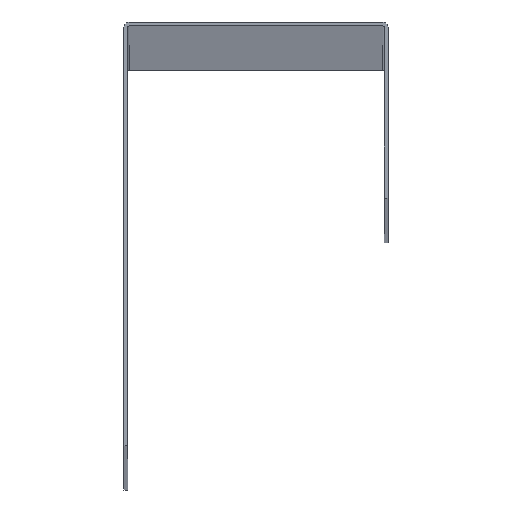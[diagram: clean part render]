
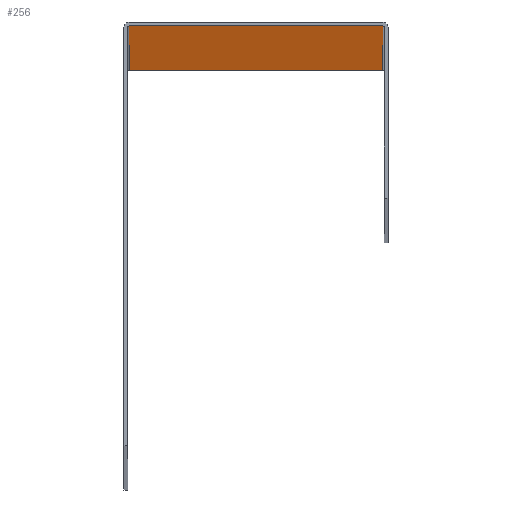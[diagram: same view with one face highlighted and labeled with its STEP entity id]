
A CAD part, top view. The second image highlights one B-rep face of the part: STEP entity #256.
In plain terms, the highlighted planar face has unit normal (0, -1, 0).
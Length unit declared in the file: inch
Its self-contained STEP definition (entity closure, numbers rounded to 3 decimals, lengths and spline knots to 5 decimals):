
#16=PLANE('',#296);
#28=FACE_OUTER_BOUND('',#42,.T.);
#42=EDGE_LOOP('',(#189,#190,#191,#192));
#54=LINE('',#394,#82);
#58=LINE('',#406,#86);
#60=LINE('',#411,#88);
#61=LINE('',#412,#89);
#82=VECTOR('',#320,0.3937);
#86=VECTOR('',#330,0.3937);
#88=VECTOR('',#336,0.3937);
#89=VECTOR('',#337,0.3937);
#117=VERTEX_POINT('',#387);
#120=VERTEX_POINT('',#392);
#124=VERTEX_POINT('',#403);
#125=VERTEX_POINT('',#405);
#144=EDGE_CURVE('',#120,#117,#54,.T.);
#149=EDGE_CURVE('',#124,#125,#58,.T.);
#152=EDGE_CURVE('',#125,#120,#60,.T.);
#153=EDGE_CURVE('',#124,#117,#61,.T.);
#189=ORIENTED_EDGE('',*,*,#144,.F.);
#190=ORIENTED_EDGE('',*,*,#152,.F.);
#191=ORIENTED_EDGE('',*,*,#149,.F.);
#192=ORIENTED_EDGE('',*,*,#153,.T.);
#256=ADVANCED_FACE('',(#28),#16,.T.);
#296=AXIS2_PLACEMENT_3D('',#410,#334,#335);
#320=DIRECTION('',(0.,0.,-1.));
#330=DIRECTION('',(0.,0.,1.));
#334=DIRECTION('center_axis',(0.,-1.,0.));
#335=DIRECTION('ref_axis',(1.,0.,0.));
#336=DIRECTION('',(1.,0.,0.));
#337=DIRECTION('',(1.,0.,0.));
#387=CARTESIAN_POINT('',(1.2029,1.977,0.));
#392=CARTESIAN_POINT('',(1.2029,1.977,120.));
#394=CARTESIAN_POINT('',(1.2029,1.977,0.));
#403=CARTESIAN_POINT('',(0.0071,1.977,0.));
#405=CARTESIAN_POINT('',(0.0071,1.977,120.));
#406=CARTESIAN_POINT('',(0.0071,1.977,0.));
#410=CARTESIAN_POINT('Origin',(0.,1.977,0.));
#411=CARTESIAN_POINT('',(0.,1.977,120.));
#412=CARTESIAN_POINT('',(0.,1.977,0.));
